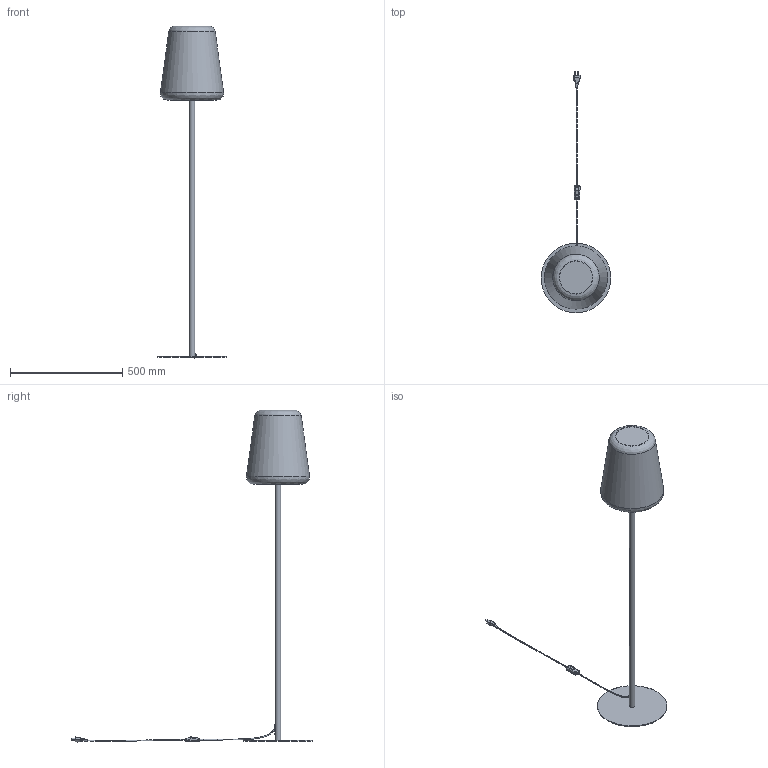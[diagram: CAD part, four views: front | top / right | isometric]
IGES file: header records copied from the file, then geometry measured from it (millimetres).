
Start section: SolidWorks IGES file using analytic representation for surfaces
Global section: file name: X:\PRODUKT\Modele 3D_WWW\_KOLEKCJE WWW\PATIO-10105\PATIO-10105.IGS; native system: SolidWorks 2021; preprocessor: SolidWorks 2021; author: gabriela.tworek; date: 220531.074107; units: millimetre
Bounding box: 310 x 1075.64 x 1477.77 mm (x, y, z)
Surface area: 936919.1 mm2 (no closed solid volume)
Topology: 0 solids, 0 shells, 116 faces, 461 edges, 437 vertices
Faces by surface type: bspline 63, revolution 53
